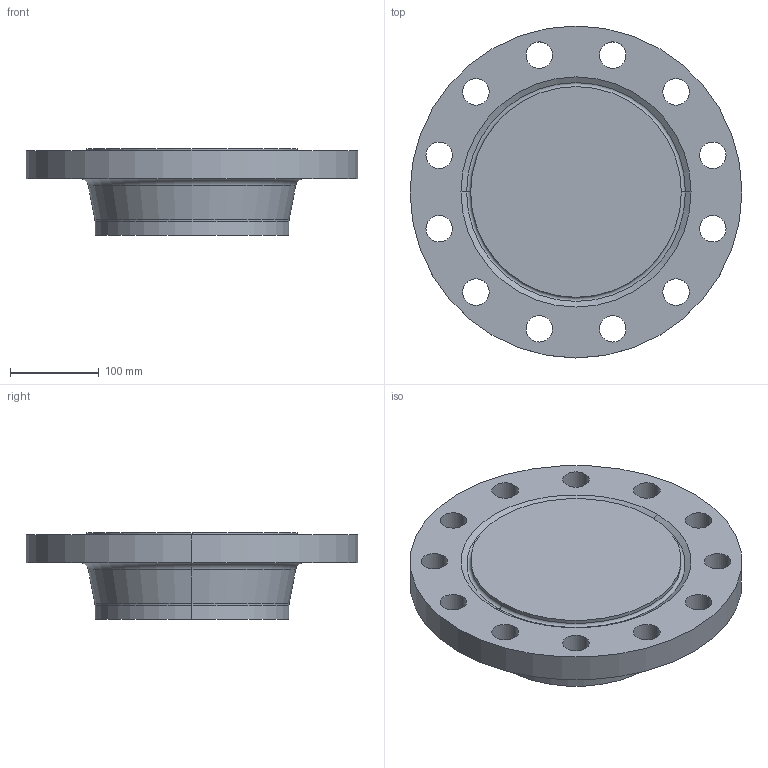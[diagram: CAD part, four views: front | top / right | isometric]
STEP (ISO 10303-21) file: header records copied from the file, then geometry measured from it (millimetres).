
FILE_DESCRIPTION (( 'STEP AP214' ), '1' );
FILE_NAME ('PN40 DN200 Type 21(ii) - Type H Face.STEP', '2019-01-05T01:41:28', ( '' ), ( '' ), 'SwSTEP 2.0', 'SolidWorks 2019', '' );
FILE_SCHEMA (( 'AUTOMOTIVE_DESIGN' ));
Length unit declared in the file: millimetre
Products named in the file (1): PN40 DN200 Type 21(ii) - Type H Face
Bounding box: 375 x 375 x 98 mm (x, y, z)
Volume: 5875325.6 mm3; surface area: 319404 mm2
Topology: 1 solids, 1 shells, 44 faces, 110 edges, 70 vertices
Faces by surface type: cylinder 30, torus 6, cone 4, plane 4
Entity records: 1432 total; most frequent: DIRECTION 276, CARTESIAN_POINT 225, ORIENTED_EDGE 220, AXIS2_PLACEMENT_3D 121, EDGE_CURVE 110, CIRCLE 76, EDGE_LOOP 70, VERTEX_POINT 70
